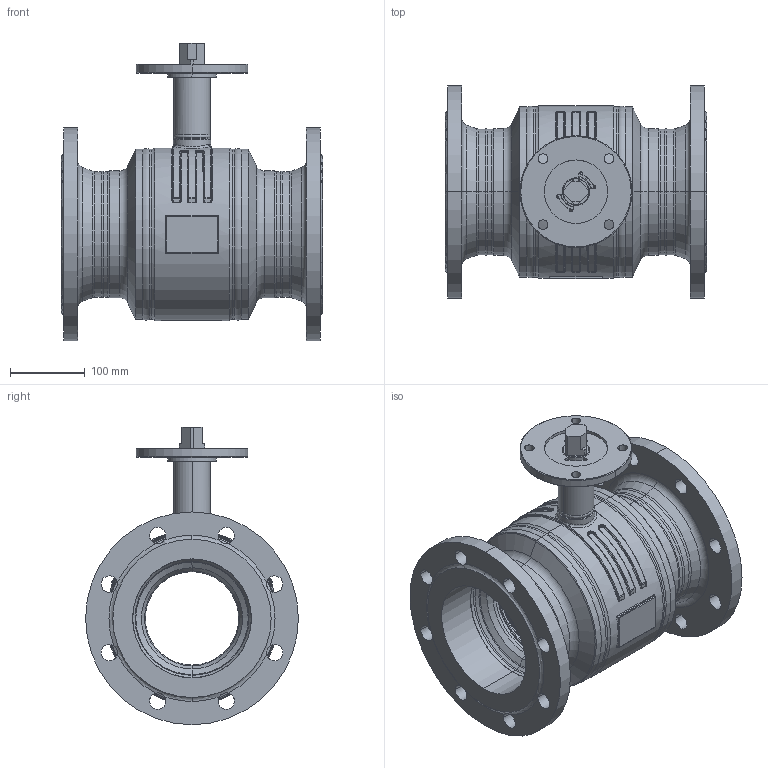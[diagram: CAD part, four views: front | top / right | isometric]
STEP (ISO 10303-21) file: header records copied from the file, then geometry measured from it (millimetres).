
FILE_DESCRIPTION((''),'2;1');
FILE_NAME('KHMO-F-R-H-150R125P01_SW0001','2025-04-23T09:45:07',('jeitlers'),('KLINGER'),'CREO PARAMETRIC BY PTC INC, 2023014','CREO PARAMETRIC BY PTC INC, 2023014','');
FILE_SCHEMA(('CONFIG_CONTROL_DESIGN'));
Length unit declared in the file: millimetre
Products named in the file (1): KHMO-F-R-H-150R125P01_SW0001
Bounding box: 350 x 285 x 398.5 mm (x, y, z)
Volume: 5204556.7 mm3; surface area: 1097732.1 mm2
Topology: 2 solids, 2 shells, 629 faces, 1541 edges, 916 vertices
Faces by surface type: cylinder 230, torus 140, plane 113, cone 86, bspline 52, sphere 8
Entity records: 31843 total; most frequent: CARTESIAN_POINT 16816, DIRECTION 3387, ORIENTED_EDGE 3066, EDGE_CURVE 1533, AXIS2_PLACEMENT_3D 1453, VERTEX_POINT 916, CIRCLE 876, EDGE_LOOP 697
